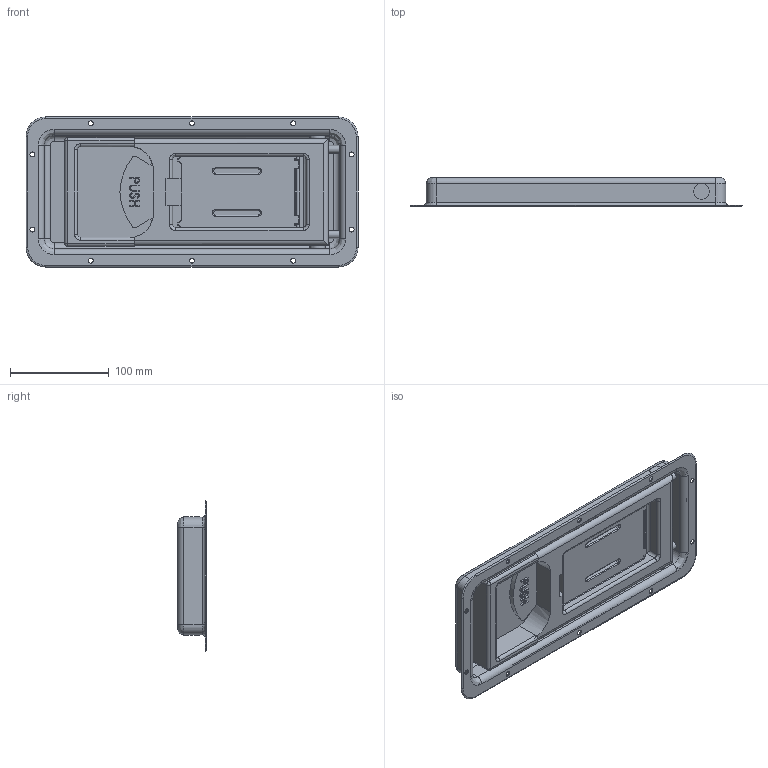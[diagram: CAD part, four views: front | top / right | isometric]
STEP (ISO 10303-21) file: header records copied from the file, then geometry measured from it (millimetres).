
FILE_DESCRIPTION (( 'STEP AP203' ), '1' );
FILE_NAME ('ART10092.STEP', '2020-05-15T04:37:24', ( '' ), ( '' ), 'SwSTEP 2.0', 'SolidWorks 2016', '' );
FILE_SCHEMA (( 'CONFIG_CONTROL_DESIGN' ));
Length unit declared in the file: millimetre
Products named in the file (1): ART10092
Bounding box: 336 x 29 x 152 mm (x, y, z)
Volume: 578380.3 mm3; surface area: 172796.6 mm2
Topology: 1 solids, 1 shells, 295 faces, 770 edges, 481 vertices
Faces by surface type: cylinder 123, plane 99, bspline 73
Entity records: 11826 total; most frequent: CARTESIAN_POINT 4841, ORIENTED_EDGE 1536, DIRECTION 1308, EDGE_CURVE 768, VERTEX_POINT 481, AXIS2_PLACEMENT_3D 450, LINE 408, VECTOR 408
